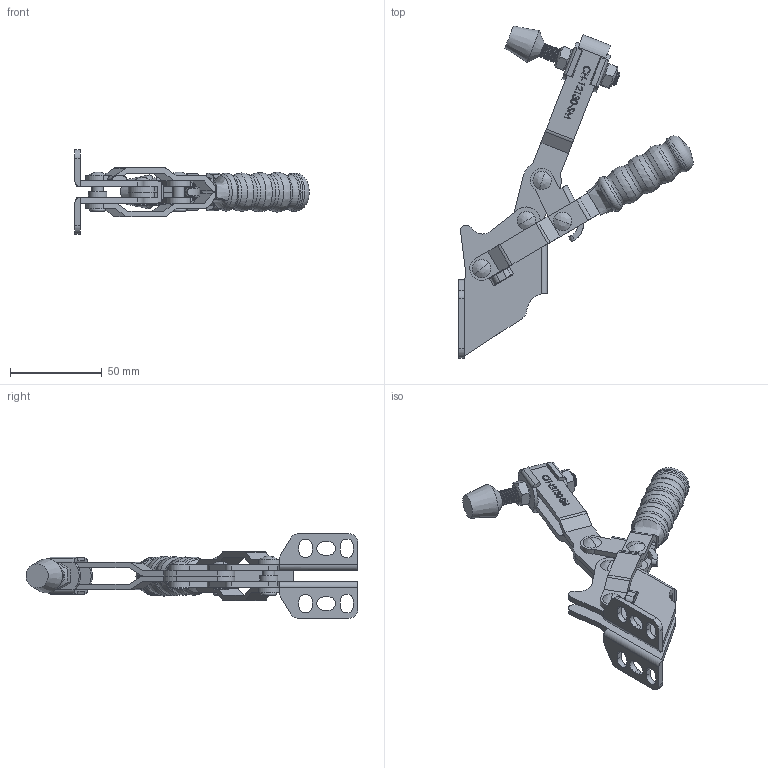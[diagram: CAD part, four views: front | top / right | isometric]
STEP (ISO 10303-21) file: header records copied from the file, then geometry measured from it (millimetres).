
FILE_DESCRIPTION(/* description */ ('STEP AP203'),/* implementation_level */ '2;1');
FILE_NAME(/* name */ 'D:\Vault_2016\Projekty\NASZ KATALOG\CLAMPTEK\STRONA\Vertical toggle clamp\CH-12130-SM\CH-12130-SM_OTWARTY.stp',/* time_stamp */ '2019-01-18T12:39:26+01:00',/* author */ ('CADENGINEERING4'),/* organization */ ('Î¢ÈíÖÐ¹ú'),/* preprocessor_version */ 'ST-DEVELOPER v17.2',/* originating_system */ 'Autodesk Inventor 2019',/* authorisation */ '');
FILE_SCHEMA (('AUTOMOTIVE_DESIGN { 1 0 10303 214 3 1 1 }'));
Products named in the file (12): CH-12130-SM_OTWARTY; CH-12130-SM-01 SIDE MOUNTED; CH-12130-04 CONNECTING-PLATE; CH-12130-03 STRAIGHT HANDLE; CH-FC-56212 Nut; CH-12130-05; CH-12130-08; CH-12130-07; CH-FC-56212 SPINDLE SUPPLIED; CH-12130-06; CH-12130-SM-02 U-BAR; CH-FW-516
Assembly tree (15 placements, depth 2):
  CH-12130-SM_OTWARTY
    CH-12130-SM-01 SIDE MOUNTED
    CH-12130-04 CONNECTING-PLATE
    CH-12130-08  x2
    CH-FW-516  x2
    CH-FC-56212 Nut  x2
    CH-12130-03 STRAIGHT HANDLE
    CH-12130-05
    CH-12130-07
    CH-FC-56212 SPINDLE SUPPLIED
    CH-12130-06  x2
    CH-12130-SM-02 U-BAR
Bounding box: 127.42 x 180.43 x 46 mm (x, y, z)
Volume: 66653.7 mm3; surface area: 50816 mm2
Topology: 18 solids, 18 shells, 781 faces, 2177 edges, 1458 vertices
Faces by surface type: plane 348, bspline 208, cylinder 170, cone 30, torus 25
Full cylindrical faces by diameter (mm): 2.566 x1, 2.984 x1, 3 x2, 6.3 x6, 6.4 x20, 6.8 x1, 7.92 x32, 8.1 x2, 8.4 x2, 10 x1, 20.847 x1
Entity records: 49678 total; most frequent: CARTESIAN_POINT 31649, ORIENTED_EDGE 4046, DIRECTION 3008, EDGE_CURVE 2023, VERTEX_POINT 1362, LINE 1120, VECTOR 1120, AXIS2_PLACEMENT_3D 944
